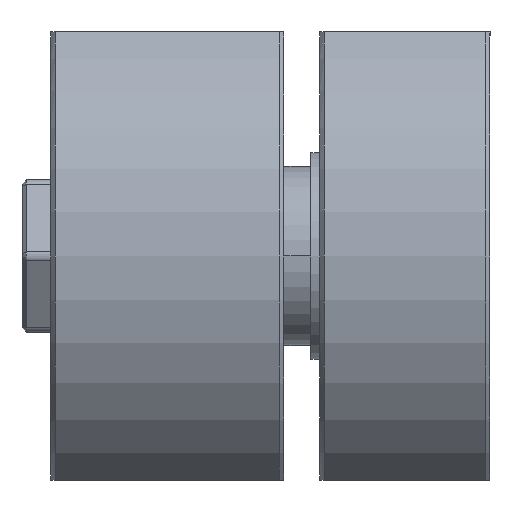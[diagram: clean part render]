
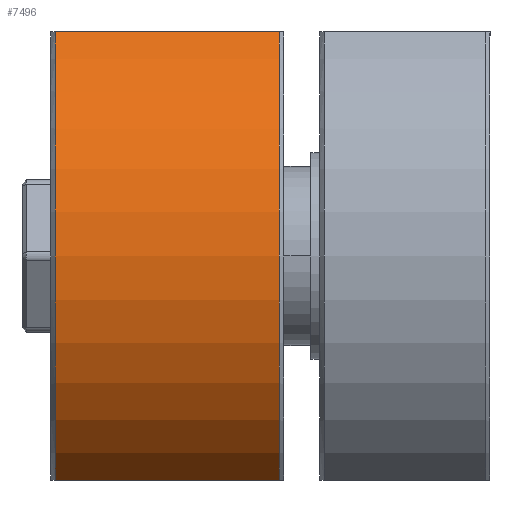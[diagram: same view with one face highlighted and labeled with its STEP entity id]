
A CAD part, left-side view. The second image highlights one B-rep face of the part: STEP entity #7496.
In plain terms, the highlighted cylindrical face has radius 30 mm (diameter 60 mm), a partial arc.
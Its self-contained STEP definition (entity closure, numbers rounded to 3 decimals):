
#258 = CARTESIAN_POINT ( 'NONE',  ( 11.543, -9.198, -50. ) ) ;
#631 = DIRECTION ( 'NONE',  ( 0., 1., 0. ) ) ;
#1431 = ORIENTED_EDGE ( 'NONE', *, *, #3739, .F. ) ;
#1674 = CARTESIAN_POINT ( 'NONE',  ( 11.543, 15.802, 0. ) ) ;
#1776 = DIRECTION ( 'NONE',  ( -0.553, 0., 0.833 ) ) ;
#1918 = CARTESIAN_POINT ( 'NONE',  ( 11.543, 15.802, -50. ) ) ;
#2046 = EDGE_CURVE ( 'NONE', #6456, #6255, #9779, .T. ) ;
#2242 = CARTESIAN_POINT ( 'NONE',  ( 11.543, -9.198, 0. ) ) ;
#2592 = DIRECTION ( 'NONE',  ( 0., -1., 0. ) ) ;
#2753 = LINE ( 'NONE', #2242, #4929 ) ;
#2975 = CARTESIAN_POINT ( 'NONE',  ( 11.543, -9.198, 0. ) ) ;
#2995 = AXIS2_PLACEMENT_3D ( 'NONE', #8804, #2592, #1776 ) ;
#3739 = EDGE_CURVE ( 'NONE', #6456, #3876, #5699, .T. ) ;
#3876 = VERTEX_POINT ( 'NONE', #1918 ) ;
#3980 = ORIENTED_EDGE ( 'NONE', *, *, #2046, .T. ) ;
#4206 = EDGE_LOOP ( 'NONE', ( #1431, #3980, #5009, #9146 ) ) ;
#4929 = VECTOR ( 'NONE', #7679, 1000. ) ;
#4967 = EDGE_CURVE ( 'NONE', #9669, #3876, #8716, .T. ) ;
#5009 = ORIENTED_EDGE ( 'NONE', *, *, #7405, .T. ) ;
#5230 = DIRECTION ( 'NONE',  ( 0., 1., 0. ) ) ;
#5348 = AXIS2_PLACEMENT_3D ( 'NONE', #6010, #5230, #8476 ) ;
#5358 = FACE_OUTER_BOUND ( 'NONE', #4206, .T. ) ;
#5699 = LINE ( 'NONE', #258, #9728 ) ;
#6010 = CARTESIAN_POINT ( 'NONE',  ( 28.126, -9.198, -25. ) ) ;
#6032 = CYLINDRICAL_SURFACE ( 'NONE', #9989, 30. ) ;
#6255 = VERTEX_POINT ( 'NONE', #2975 ) ;
#6456 = VERTEX_POINT ( 'NONE', #7841 ) ;
#7012 = CARTESIAN_POINT ( 'NONE',  ( 28.126, -3.698, -25. ) ) ;
#7405 = EDGE_CURVE ( 'NONE', #6255, #9669, #2753, .T. ) ;
#7496 = ADVANCED_FACE ( 'NONE', ( #5358 ), #6032, .T. ) ;
#7679 = DIRECTION ( 'NONE',  ( 0., 1., 0. ) ) ;
#7841 = CARTESIAN_POINT ( 'NONE',  ( 11.543, -9.198, -50. ) ) ;
#8449 = DIRECTION ( 'NONE',  ( 1., 0., 0. ) ) ;
#8476 = DIRECTION ( 'NONE',  ( -0.553, 0., -0.833 ) ) ;
#8716 = CIRCLE ( 'NONE', #2995, 30. ) ;
#8804 = CARTESIAN_POINT ( 'NONE',  ( 28.126, 15.802, -25. ) ) ;
#8836 = DIRECTION ( 'NONE',  ( 0., 1., 0. ) ) ;
#9146 = ORIENTED_EDGE ( 'NONE', *, *, #4967, .T. ) ;
#9669 = VERTEX_POINT ( 'NONE', #1674 ) ;
#9728 = VECTOR ( 'NONE', #8836, 1000. ) ;
#9779 = CIRCLE ( 'NONE', #5348, 30. ) ;
#9989 = AXIS2_PLACEMENT_3D ( 'NONE', #7012, #631, #8449 ) ;
